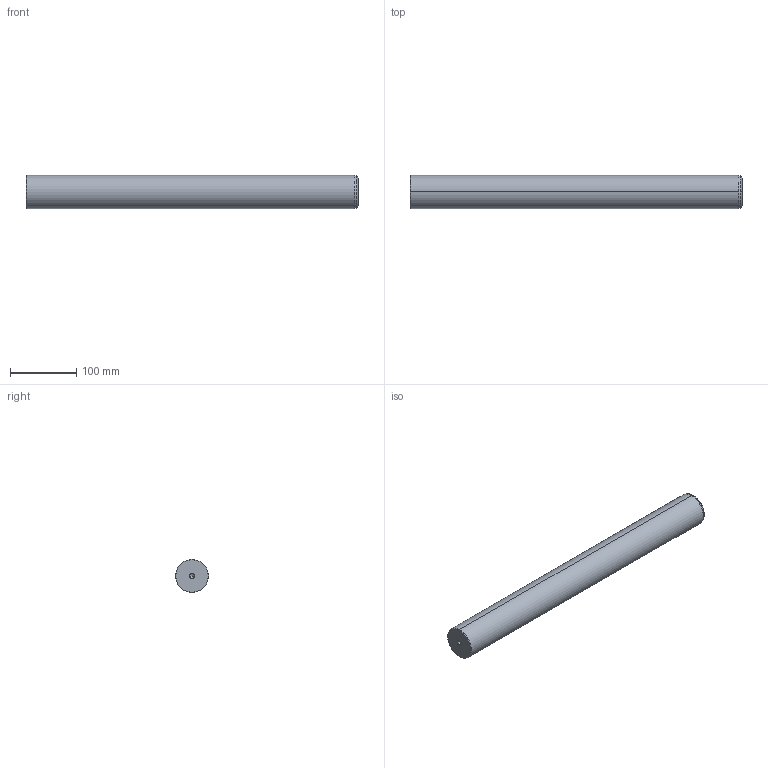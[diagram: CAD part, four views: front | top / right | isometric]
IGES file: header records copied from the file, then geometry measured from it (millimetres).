
Start section: START RECORD GO HERE.
Global section: file name: 720-50x500.igs; native system: DASSAULT SYSTEMES CATIA V5 R20 - www.3ds.com; preprocessor: CATIA Version 5 Release 20 ; author: Utente; organization: NB04-ASUS; date: 20201230.223647; units: millimetre
Bounding box: 500 x 50 x 50 mm (x, y, z)
Surface area: 83059.5 mm2 (no closed solid volume)
Topology: 0 solids, 0 shells, 22 faces, 120 edges, 116 vertices
Faces by surface type: revolution 20, plane 2
